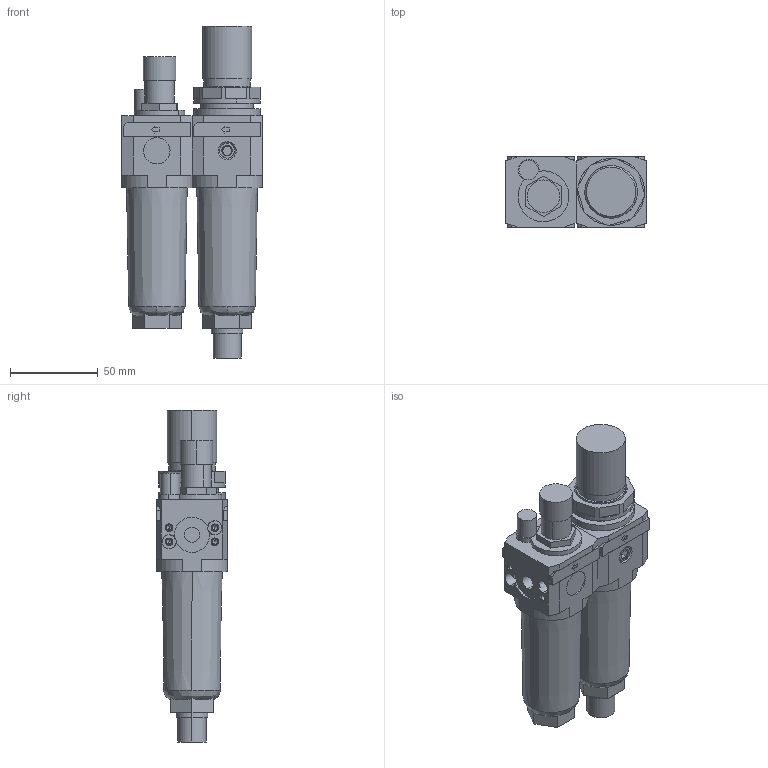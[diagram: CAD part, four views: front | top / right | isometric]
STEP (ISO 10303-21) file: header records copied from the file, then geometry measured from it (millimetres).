
FILE_DESCRIPTION((''),'2;1');
FILE_NAME('I:\DOC-EDP\Lib-3d\FRL\17106A_.stp','2003-06-16T14:49:12',('maffial1'),(''),'Autodesk Inventor 7','Autodesk Inventor 7','');
FILE_SCHEMA(('AUTOMOTIVE_DESIGN { 1 0 10303 214 1 1 1 1 }'));
Length unit declared in the file: millimetre
Products named in the file (6): 17106A_; 17104A_; 17104A_(1); RS_1701_12; RK_1701_020; 17103A
Assembly tree (5 placements, depth 3):
  17106A_
    17104A_
      17104A_(1)
      RS_1701_12
      RK_1701_020
    17103A
Bounding box: 80 x 40 x 189 mm (x, y, z)
Volume: 301332.3 mm3; surface area: 56703.4 mm2
Topology: 4 solids, 8 shells, 388 faces, 951 edges, 599 vertices
Faces by surface type: plane 143, bspline 115, cylinder 82, cone 44, torus 4
Entity records: 12257 total; most frequent: CARTESIAN_POINT 3294, ORIENTED_EDGE 1846, DIRECTION 1766, EDGE_CURVE 923, VERTEX_POINT 599, AXIS2_PLACEMENT_3D 595, VECTOR 576, LINE 576
